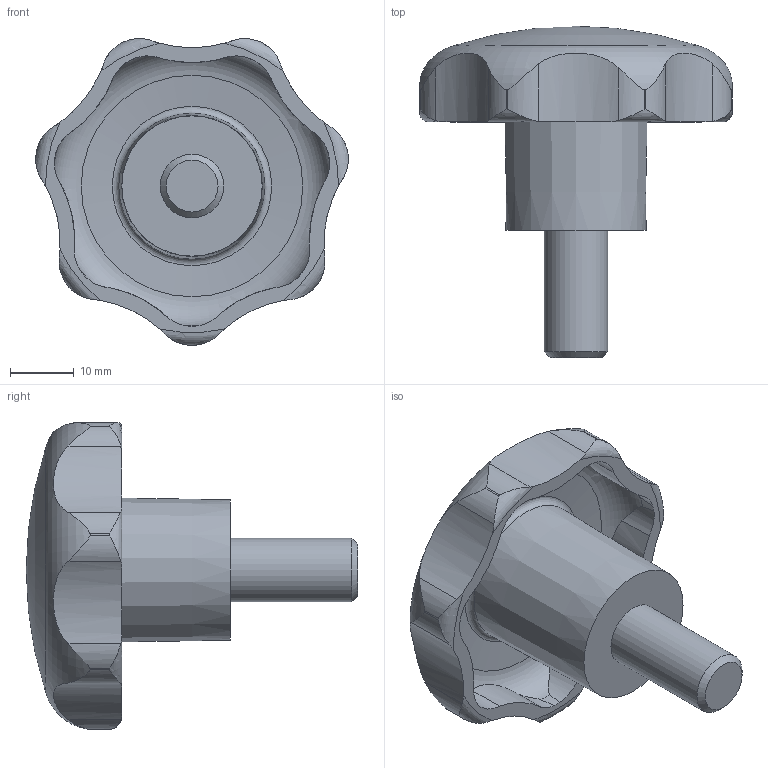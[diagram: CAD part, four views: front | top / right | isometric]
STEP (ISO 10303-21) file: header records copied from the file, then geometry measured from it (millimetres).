
FILE_DESCRIPTION( ( 'STEP AP203' ), '1' );
FILE_NAME( 'C:/Temp/Ganter_Step_05_03_2020/data/2_2/gn_6336_4/gn_6336_4_st/Star knob GN 6336.4-ST-50-M10-20.stp', '2020-03-05T12:07:36', ( 'License CC BY-ND 4.0' ), ( 'CADENAS' ), ' ', 'PARTsolutions', ' ' );
FILE_SCHEMA( ( 'CONFIG_CONTROL_DESIGN' ) );
Length unit declared in the file: millimetre
Products named in the file (1): _Star knob GN 6336.4-ST-50-M10-20
Bounding box: 49.04 x 52 x 48.12 mm (x, y, z)
Volume: 22718.7 mm3; surface area: 8077.6 mm2
Topology: 1 solids, 1 shells, 74 faces, 209 edges, 138 vertices
Faces by surface type: cylinder 50, torus 10, cone 10, plane 3, sphere 1
Full cylindrical faces by diameter (mm): 10 x1
Entity records: 3234 total; most frequent: CARTESIAN_POINT 1425, ORIENTED_EDGE 394, DIRECTION 334, EDGE_CURVE 197, AXIS2_PLACEMENT_3D 146, VERTEX_POINT 135, B_SPLINE_CURVE_WITH_KNOTS 84, EDGE_LOOP 83
